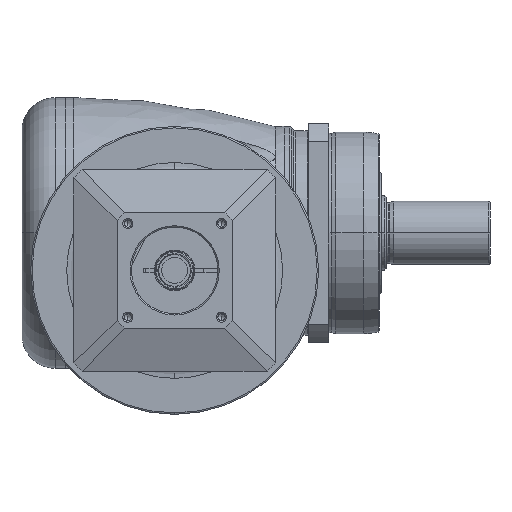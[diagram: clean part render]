
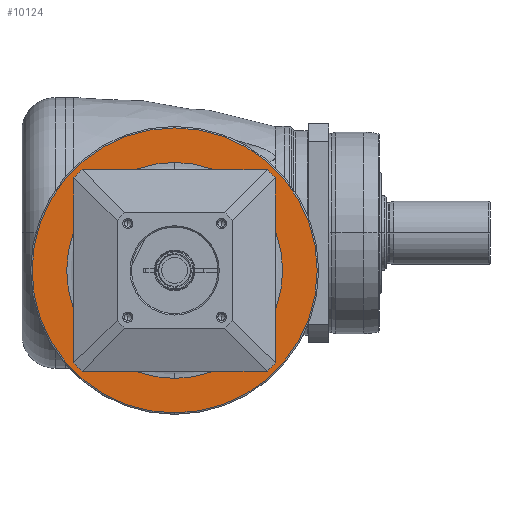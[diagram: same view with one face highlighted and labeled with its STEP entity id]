
A CAD part, front view. The second image highlights one B-rep face of the part: STEP entity #10124.
In plain terms, the highlighted planar face has unit normal (0, -1, 0) as drawn and (1, 0, 0) by its records, which use the part's own axes.
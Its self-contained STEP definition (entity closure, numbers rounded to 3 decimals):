
#9155=CARTESIAN_POINT('',(-10.,0.,0.));
#9156=DIRECTION('',(-1.,0.,0.));
#9157=DIRECTION('',(0.,-1.,0.));
#9158=AXIS2_PLACEMENT_3D('',#9155,#9156,#9157);
#9160=CARTESIAN_POINT('',(-10.,0.,0.));
#9161=DIRECTION('',(-1.,0.,0.));
#9162=DIRECTION('',(0.,1.,0.));
#9163=AXIS2_PLACEMENT_3D('',#9160,#9161,#9162);
#9165=CARTESIAN_POINT('',(-10.,0.,0.));
#9166=DIRECTION('',(-1.,0.,0.));
#9167=DIRECTION('',(0.,-1.,0.));
#9168=AXIS2_PLACEMENT_3D('',#9165,#9166,#9167);
#9170=CARTESIAN_POINT('',(-10.,0.,0.));
#9171=DIRECTION('',(-1.,0.,0.));
#9172=DIRECTION('',(0.,1.,0.));
#9173=AXIS2_PLACEMENT_3D('',#9170,#9171,#9172);
#9417=CARTESIAN_POINT('',(-10.,-49.5,0.));
#9418=CARTESIAN_POINT('',(-10.,49.5,0.));
#9419=VERTEX_POINT('',#9417);
#9420=VERTEX_POINT('',#9418);
#9475=CARTESIAN_POINT('',(-10.,-37.5,0.));
#9476=CARTESIAN_POINT('',(-10.,37.5,0.));
#9477=VERTEX_POINT('',#9475);
#9478=VERTEX_POINT('',#9476);
#10109=CARTESIAN_POINT('',(-10.,0.,0.));
#10110=DIRECTION('',(1.,0.,0.));
#10111=DIRECTION('',(0.,-1.,0.));
#10112=AXIS2_PLACEMENT_3D('',#10109,#10110,#10111);
#10113=PLANE('',#10112);
#10114=ORIENTED_EDGE('',*,*,#10065,.T.);
#10115=ORIENTED_EDGE('',*,*,#10050,.T.);
#10116=EDGE_LOOP('',(#10114,#10115));
#10117=FACE_OUTER_BOUND('',#10116,.F.);
#10119=ORIENTED_EDGE('',*,*,#10118,.F.);
#10121=ORIENTED_EDGE('',*,*,#10120,.F.);
#10122=EDGE_LOOP('',(#10119,#10121));
#10123=FACE_BOUND('',#10122,.F.);
#10124=ADVANCED_FACE('',(#10117,#10123),#10113,.T.);
#9159=CIRCLE('',#9158,37.5);
#9164=CIRCLE('',#9163,37.5);
#9169=CIRCLE('',#9168,49.5);
#9174=CIRCLE('',#9173,49.5);
#10050=EDGE_CURVE('',#9420,#9419,#9174,.T.);
#10065=EDGE_CURVE('',#9419,#9420,#9169,.T.);
#10118=EDGE_CURVE('',#9477,#9478,#9159,.T.);
#10120=EDGE_CURVE('',#9478,#9477,#9164,.T.);
